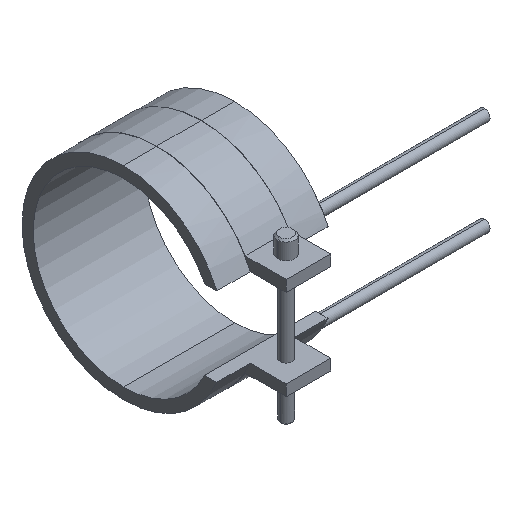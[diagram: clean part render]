
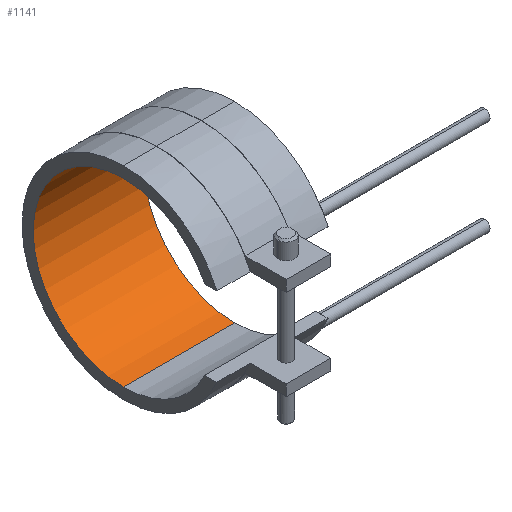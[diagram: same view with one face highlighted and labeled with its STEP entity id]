
A CAD part, isometric view. The second image highlights one B-rep face of the part: STEP entity #1141.
In plain terms, the highlighted cylindrical face has radius 32.5 mm (diameter 65 mm), a partial arc.
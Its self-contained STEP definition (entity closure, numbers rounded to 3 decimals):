
#822=CARTESIAN_POINT('Vertex',(-20.,0.,-32.5)) ;
#829=CARTESIAN_POINT('Vertex',(20.,0.,-32.5)) ;
#832=CARTESIAN_POINT('Line Origine',(20.,0.,-32.5)) ;
#850=CARTESIAN_POINT('Axis2P3D Location',(-20.,0.,0.)) ;
#854=CARTESIAN_POINT('Vertex',(-20.,0.,32.5)) ;
#911=CARTESIAN_POINT('Vertex',(20.,0.,32.5)) ;
#921=CARTESIAN_POINT('Line Origine',(20.,0.,32.5)) ;
#1012=CARTESIAN_POINT('Axis2P3D Location',(20.,0.,0.)) ;
#1130=CARTESIAN_POINT('Axis2P3D Location',(20.,0.,0.)) ;
#833=DIRECTION('Vector Direction',(1.,0.,0.)) ;
#851=DIRECTION('Axis2P3D Direction',(1.,0.,0.)) ;
#922=DIRECTION('Vector Direction',(1.,0.,0.)) ;
#1013=DIRECTION('Axis2P3D Direction',(1.,0.,0.)) ;
#1131=DIRECTION('Axis2P3D Direction',(1.,0.,-0.)) ;
#1132=DIRECTION('Axis2P3D XDirection',(0.,0.,-1.)) ;
#852=AXIS2_PLACEMENT_3D('Circle Axis2P3D',#850,#851,$) ;
#1014=AXIS2_PLACEMENT_3D('Circle Axis2P3D',#1012,#1013,$) ;
#1133=AXIS2_PLACEMENT_3D('Cylinder Axis2P3D',#1130,#1131,#1132) ;
#1136=ORIENTED_EDGE('',*,*,#1016,.T.) ;
#1137=ORIENTED_EDGE('',*,*,#925,.T.) ;
#1138=ORIENTED_EDGE('',*,*,#856,.F.) ;
#1139=ORIENTED_EDGE('',*,*,#836,.T.) ;
#834=VECTOR('Line Direction',#833,1.) ;
#923=VECTOR('Line Direction',#922,1.) ;
#1141=ADVANCED_FACE('14065040',(#1140),#1134,.F.) ;
#853=CIRCLE('generated circle',#852,32.5) ;
#1015=CIRCLE('generated circle',#1014,32.5) ;
#1134=CYLINDRICAL_SURFACE('generated cylinder',#1133,32.5) ;
#836=EDGE_CURVE('',#823,#830,#835,.T.) ;
#856=EDGE_CURVE('',#823,#855,#853,.T.) ;
#925=EDGE_CURVE('',#912,#855,#924,.F.) ;
#1016=EDGE_CURVE('',#830,#912,#1015,.T.) ;
#1135=EDGE_LOOP('',(#1136,#1137,#1138,#1139)) ;
#1140=FACE_OUTER_BOUND('',#1135,.T.) ;
#835=LINE('Line',#832,#834) ;
#924=LINE('Line',#921,#923) ;
#823=VERTEX_POINT('',#822) ;
#830=VERTEX_POINT('',#829) ;
#855=VERTEX_POINT('',#854) ;
#912=VERTEX_POINT('',#911) ;
